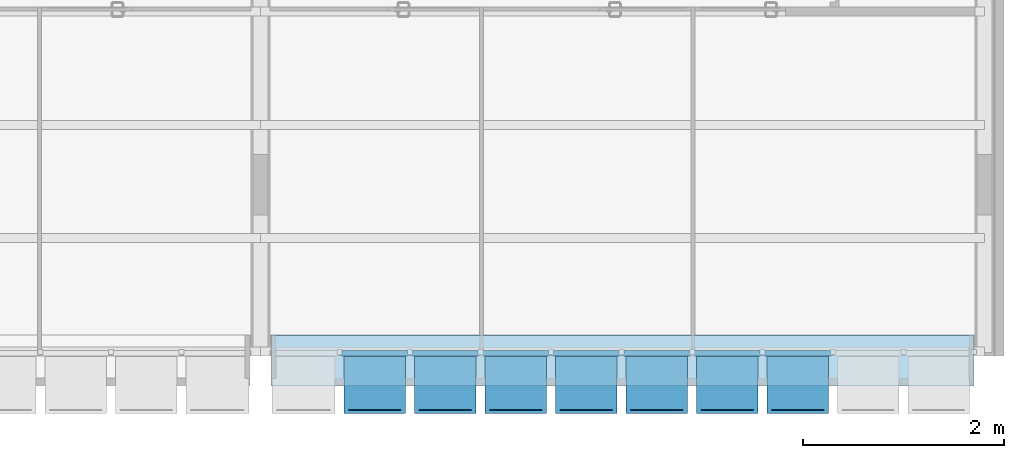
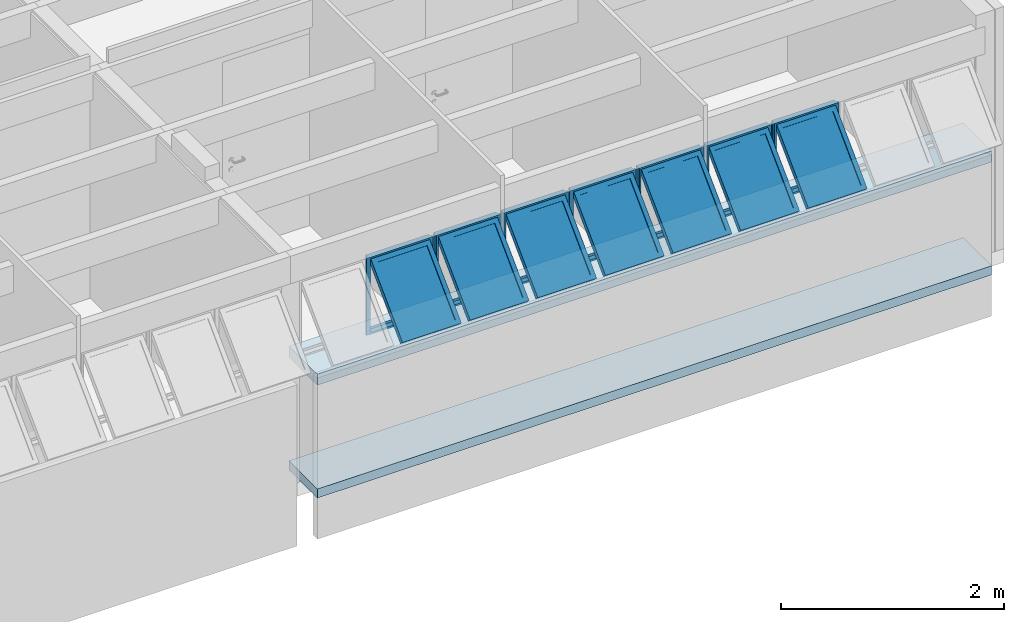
# One storey, part 6 of 41: 7 plates, 2 slabs, 1 element without a shape of its own.
"""IFC4 building model written with IfcOpenShell, lengths in millimetres."""

from ifc_helpers import new_model, entity, si_unit, converted_unit, derived_unit, direction, frame, origin_with_axes, place, context, subcontext, project, spatial, line, indexed_curve, outline, extrude, polygons, source, transform, mapped, material, layer, layer_set, layer_usage, constituent, constituent_set, type_object, element, aggregate, save


model = new_model("IFC4")

# Units and contexts
model_context = context("Model", 3, precision=0.01, world=origin_with_axes(), true_north=direction((0.0, 1.0)))
body_context = subcontext(model_context, "Body", "Model", "MODEL_VIEW")
ifc_project = project(units=[si_unit("LENGTHUNIT", "METRE", prefix="MILLI"), si_unit("AREAUNIT", "SQUARE_METRE"), si_unit("VOLUMEUNIT", "CUBIC_METRE"), converted_unit("PLANEANGLEUNIT", "DEGREE", entity("IfcPlaneAngleMeasure", 0.0174532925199), si_unit("PLANEANGLEUNIT", "RADIAN"), dimensions=[0, 0, 0, 0, 0, 0, 0]), converted_unit("TIMEUNIT", "Year", entity("IfcTimeMeasure", 31556926.0), si_unit("TIMEUNIT", "SECOND"), dimensions=[0, 0, 1, 0, 0, 0, 0]), si_unit("MASSUNIT", "GRAM", prefix="KILO"), si_unit("THERMODYNAMICTEMPERATUREUNIT", "DEGREE_CELSIUS"), si_unit("LUMINOUSINTENSITYUNIT", "LUMEN"), si_unit("ENERGYUNIT", "JOULE", prefix="MEGA"), derived_unit("THERMALCONDUCTANCEUNIT", [(si_unit("POWERUNIT", "WATT"), 1), (si_unit("LENGTHUNIT", "METRE"), -1), (si_unit("THERMODYNAMICTEMPERATUREUNIT", "KELVIN"), -1)]), derived_unit("SPECIFICHEATCAPACITYUNIT", [(si_unit("ENERGYUNIT", "JOULE"), 1), (si_unit("MASSUNIT", "GRAM", prefix="KILO"), -1), (si_unit("THERMODYNAMICTEMPERATUREUNIT", "KELVIN"), -1)]), derived_unit("MASSDENSITYUNIT", [(si_unit("MASSUNIT", "GRAM", prefix="KILO"), 1), (si_unit("VOLUMEUNIT", "CUBIC_METRE"), -1)])], contexts=[model_context])

# Site, building, storey
site_placement = place(None, origin_with_axes())
site = spatial("IfcSite", under=ifc_project, at=site_placement, Name="Local", CompositionType="ELEMENT")
building_placement = place(site_placement, origin_with_axes())
building = spatial("IfcBuilding", under=site, at=building_placement, Name="Construção", CompositionType="ELEMENT")
storey_placement = place(building_placement, frame((0.0, 0.0, 2650.0), z_axis=(0.0, 0.0, 1.0), x_axis=(1.0, 0.0, 0.0)))
storey = spatial("IfcBuildingStorey", under=building, at=storey_placement, Name="Segundo Pavimento", CompositionType="ELEMENT", Elevation=2650.0)

# Slabs
ifc_material_1 = material(Name="Concreto Armado Moldado in Loco - Estrutural")
ifc_layer_1 = layer(ifc_material_1, 120.0, ventilated="UNKNOWN", Name="Concreto Armado Moldado in Loco - Estrutural")
ifc_layer_set_1 = layer_set([ifc_layer_1], Name="Concreto Armado Moldado in Loco - Estrutural 120")
ifc_layer_usage_1 = layer_usage(ifc_layer_set_1, "AXIS3", "NEGATIVE", 120.0)
slab_type_1 = type_object("IfcSlabType", Name="Concreto Armado Moldado in Loco - Estrutural 120", PredefinedType="FLOOR")
slab_1_placement = place(storey_placement, frame((14470.0, 0.0, 1355.0), z_axis=(0.0, 0.0, 1.0), x_axis=(1.0, 0.0, 0.0)))
element("IfcSlab", 1, at=slab_1_placement, inside=storey, type_object=slab_type_1, material=ifc_layer_usage_1, Name="APTO6-LAJE-002", PredefinedType="FLOOR", context=body_context, shape_type="SweptSolid", body=[
    extrude(outline(indexed_curve([(0.0, 0.0), (0.0, 510.0), (-6980.0, 510.0), (-6980.0, 0.0)], segments=[line(1, 2, 3, 4, 1)])), frame((0.0, 0.0, -120.0), z_axis=(0.0, 0.0, 1.0), x_axis=(1.0, 0.0, 0.0)), (0.0, 0.0, 1.0), 120.0),
])
ifc_layer_2 = layer(ifc_material_1, 100.0, ventilated="UNKNOWN", Name="Concreto Armado Moldado in Loco - Estrutural")
ifc_layer_set_2 = layer_set([ifc_layer_2], Name="Concreto Armado Moldado in Loco - Estrutural 100")
ifc_layer_usage_2 = layer_usage(ifc_layer_set_2, "AXIS3", "NEGATIVE", 100.0)
slab_type_2 = type_object("IfcSlabType", Name="Concreto Armado Moldado in Loco - Estrutural 100", PredefinedType="FLOOR")
slab_2_placement = place(storey_placement, frame((14470.0, 0.0, 100.0), z_axis=(0.0, 0.0, 1.0), x_axis=(1.0, 0.0, 0.0)))
element("IfcSlab", 2, at=slab_2_placement, inside=storey, type_object=slab_type_2, material=ifc_layer_usage_2, Name="APTO6-LAJE-001", PredefinedType="FLOOR", context=body_context, shape_type="SweptSolid", body=[
    extrude(outline(indexed_curve([(0.0, 0.0), (0.0, 510.0), (-6980.0, 510.0), (-6980.0, 0.0)], segments=[line(1, 2, 3, 4, 1)])), frame((0.0, 0.0, -100.0), z_axis=(0.0, 0.0, 1.0), x_axis=(1.0, 0.0, 0.0)), (0.0, 0.0, 1.0), 100.0),
])

# Window, plates
window_type = type_object("IfcWindowType", Name="Tipo de Parede Cortina", PartitioningType="NOTDEFINED", PredefinedType="NOTDEFINED")
window_placement = place(storey_placement, frame((8520.0, 315.020977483, 1355.02054151), z_axis=(0.0, 0.0, 1.0), x_axis=(1.0, 0.0, 0.0)))
window = element("IfcWindow", 3, at=window_placement, inside=storey, type_object=window_type, Name="APTO6-JANELA-001", PredefinedType="NOTDEFINED")
ifc_material_2 = material(Name="Alumínio")
ifc_constituent_1 = constituent(ifc_material_2, Name="Alumínio")
ifc_material_3 = material(Name="Vidro")
ifc_constituent_2 = constituent(ifc_material_3, Name="Vidro")
ifc_constituent_set_1 = constituent_set(constituents=[ifc_constituent_1, ifc_constituent_2])
plate_type = type_object("IfcPlateType", Name="Painel Principal 690 x 845 x 20", PredefinedType="CURTAIN_PANEL")
shared_shape_1 = source(origin_with_axes(), body_context, "Body", "Tessellation", [
    polygons([(-25.0000036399, 0.0, -40.0), (-25.0000036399, 0.0, -35.0), (-674.999997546, 0.0, -35.0), (-674.999997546, 0.0, -40.0), (-70.0000036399, 45.0, -40.0), (-70.0000036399, 45.0, -35.0), (-629.999997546, 45.0, -35.0), (-629.999997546, 45.0, -40.0)], [[[1, 2, 3, 4]], [[5, 6, 2, 1]], [[2, 6, 7, 3]], [[4, 3, 7, 8]], [[1, 4, 8, 5]], [[8, 7, 6, 5]]], closed=True),
    polygons([(-674.999997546, 0.0, -40.0), (-674.999997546, 0.0, -35.0), (-674.999997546, 844.999891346, -35.0), (-674.999997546, 844.999891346, -40.0), (-629.999997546, 45.0, -40.0), (-629.999997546, 45.0, -35.0), (-629.999997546, 799.999891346, -35.0), (-629.999997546, 799.999891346, -40.0)], [[[1, 2, 3, 4]], [[5, 6, 2, 1]], [[2, 6, 7, 3]], [[4, 3, 7, 8]], [[1, 4, 8, 5]], [[8, 7, 6, 5]]], closed=True),
    polygons([(-25.0000036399, 844.999891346, -40.0), (-25.0000036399, 844.999891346, -35.0), (-70.0000036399, 799.999891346, -35.0), (-70.0000036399, 799.999891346, -40.0), (-674.999997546, 844.999891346, -40.0), (-674.999997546, 844.999891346, -35.0), (-629.999997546, 799.999891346, -35.0), (-629.999997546, 799.999891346, -40.0)], [[[1, 2, 3, 4]], [[5, 6, 2, 1]], [[2, 6, 7, 3]], [[4, 3, 7, 8]], [[1, 4, 8, 5]], [[8, 7, 6, 5]]], closed=True),
    polygons([(-25.0000036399, 0.0, -40.0), (-25.0000036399, 0.0, -35.0), (-70.0000036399, 45.0, -35.0), (-70.0000036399, 45.0, -40.0), (-25.0000036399, 844.999891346, -40.0), (-25.0000036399, 844.999891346, -35.0), (-70.0000036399, 799.999891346, -35.0), (-70.0000036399, 799.999891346, -40.0)], [[[1, 2, 3, 4]], [[5, 6, 2, 1]], [[2, 6, 7, 3]], [[4, 3, 7, 8]], [[1, 4, 8, 5]], [[8, 7, 6, 5]]], closed=True),
    polygons([(-25.0000036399, 0.0, -35.0), (-25.0000036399, 0.0, 15.0), (-674.999997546, 0.0, 15.0), (-674.999997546, 0.0, -35.0), (-45.0000036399, 20.0, -35.0), (-45.0000036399, 20.0, 15.0), (-654.999997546, 20.0, 15.0), (-654.999997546, 20.0, -35.0)], [[[1, 2, 3, 4]], [[5, 6, 2, 1]], [[2, 6, 7, 3]], [[4, 3, 7, 8]], [[1, 4, 8, 5]], [[8, 7, 6, 5]]], closed=True),
    polygons([(-674.999997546, 0.0, -35.0), (-674.999997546, 0.0, 15.0), (-674.999997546, 844.999891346, 15.0), (-674.999997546, 844.999891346, -35.0), (-654.999997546, 20.0, -35.0), (-654.999997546, 20.0, 15.0), (-654.999997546, 824.999891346, 15.0), (-654.999997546, 824.999891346, -35.0)], [[[1, 2, 3, 4]], [[5, 6, 2, 1]], [[2, 6, 7, 3]], [[4, 3, 7, 8]], [[1, 4, 8, 5]], [[8, 7, 6, 5]]], closed=True),
    polygons([(-25.0000036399, 844.999891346, -35.0), (-25.0000036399, 844.999891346, 15.0), (-45.0000036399, 824.999891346, 15.0), (-45.0000036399, 824.999891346, -35.0), (-674.999997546, 844.999891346, -35.0), (-674.999997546, 844.999891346, 15.0), (-654.999997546, 824.999891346, 15.0), (-654.999997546, 824.999891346, -35.0)], [[[1, 2, 3, 4]], [[5, 6, 2, 1]], [[2, 6, 7, 3]], [[4, 3, 7, 8]], [[1, 4, 8, 5]], [[8, 7, 6, 5]]], closed=True),
    polygons([(-25.0000036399, 0.0, -35.0), (-25.0000036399, 0.0, 15.0), (-45.0000036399, 20.0, 15.0), (-45.0000036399, 20.0, -35.0), (-25.0000036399, 844.999891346, -35.0), (-25.0000036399, 844.999891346, 15.0), (-45.0000036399, 824.999891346, 15.0), (-45.0000036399, 824.999891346, -35.0)], [[[1, 2, 3, 4]], [[5, 6, 2, 1]], [[2, 6, 7, 3]], [[4, 3, 7, 8]], [[1, 4, 8, 5]], [[8, 7, 6, 5]]], closed=True),
    polygons([(-694.999995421, 0.0, -10.0), (-694.999995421, 0.0, 10.0), (-694.999995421, 844.999891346, 10.0), (-694.999995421, 844.999891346, -10.0), (-674.999997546, 0.0, -10.0), (-674.999997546, 0.0, 10.0), (-674.999997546, 844.999891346, 10.0), (-674.999997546, 844.999891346, -10.0)], [[[1, 2, 3, 4]], [[5, 6, 2, 1]], [[2, 6, 7, 3]], [[4, 3, 7, 8]], [[1, 4, 8, 5]], [[8, 7, 6, 5]]], closed=True),
    polygons([(-5.00000576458, 844.999891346, -10.0), (-5.00000576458, 844.999891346, 10.0), (-5.00000576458, 0.0, 10.0), (-5.00000576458, 0.0, -10.0), (-25.0000036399, 844.999891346, -10.0), (-25.0000036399, 844.999891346, 10.0), (-25.0000036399, 0.0, 10.0), (-25.0000036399, 0.0, -10.0)], [[[1, 2, 3, 4]], [[5, 6, 2, 1]], [[2, 6, 7, 3]], [[4, 3, 7, 8]], [[1, 4, 8, 5]], [[8, 7, 6, 5]]], closed=True),
    polygons([(-90.0000036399, 252.243475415, 517.045737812), (-90.0000036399, 291.13434838, 555.936610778), (-90.0000036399, 796.715620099, 50.3553390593), (-90.0000036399, 757.824747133, 11.4644660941), (-45.0000036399, 220.423670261, 548.865542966), (-45.0000036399, 259.314543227, 587.756415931), (-45.0000036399, 828.535425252, 18.5355339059), (-45.0000036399, 789.644552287, -20.3553390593)], [[[1, 2, 3, 4]], [[5, 6, 2, 1]], [[2, 6, 7, 3]], [[4, 3, 7, 8]], [[1, 4, 8, 5]], [[8, 7, 6, 5]]], closed=True),
    polygons([(-654.999997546, 220.423670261, 548.865542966), (-654.999997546, 259.314543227, 587.756415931), (-654.999997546, 828.535425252, 18.5355339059), (-654.999997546, 789.644552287, -20.3553390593), (-609.999997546, 252.243475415, 517.045737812), (-609.999997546, 291.13434838, 555.936610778), (-609.999997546, 796.715620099, 50.3553390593), (-609.999997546, 757.824747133, 11.4644660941)], [[[1, 2, 3, 4]], [[5, 6, 2, 1]], [[2, 6, 7, 3]], [[4, 3, 7, 8]], [[1, 4, 8, 5]], [[8, 7, 6, 5]]], closed=True),
    polygons([(-654.999997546, 220.423670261, 548.865542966), (-654.999997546, 259.314543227, 587.756415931), (-609.999997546, 291.13434838, 555.936610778), (-609.999997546, 252.243475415, 517.045737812), (-45.0000036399, 220.423670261, 548.865542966), (-45.0000036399, 259.314543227, 587.756415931), (-90.0000036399, 291.13434838, 555.936610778), (-90.0000036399, 252.243475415, 517.045737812)], [[[1, 2, 3, 4]], [[5, 6, 2, 1]], [[2, 6, 7, 3]], [[4, 3, 7, 8]], [[1, 4, 8, 5]], [[8, 7, 6, 5]]], closed=True),
    polygons([(-45.0000036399, 789.644552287, -20.3553390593), (-45.0000036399, 828.535425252, 18.5355339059), (-90.0000036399, 796.715620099, 50.3553390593), (-90.0000036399, 757.824747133, 11.4644660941), (-654.999997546, 789.644552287, -20.3553390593), (-654.999997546, 828.535425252, 18.5355339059), (-609.999997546, 796.715620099, 50.3553390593), (-609.999997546, 757.824747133, 11.4644660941)], [[[1, 2, 3, 4]], [[5, 6, 2, 1]], [[2, 6, 7, 3]], [[4, 3, 7, 8]], [[1, 4, 8, 5]], [[8, 7, 6, 5]]], closed=True),
    polygons([(-90.0000036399, 272.749572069, 537.551834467), (-90.0000036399, 284.063280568, 548.865542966), (-609.999997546, 284.063280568, 548.865542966), (-609.999997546, 272.749572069, 537.551834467), (-90.0000036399, 778.330843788, 31.9705627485), (-90.0000036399, 789.644552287, 43.2842712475), (-609.999997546, 789.644552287, 43.2842712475), (-609.999997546, 778.330843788, 31.9705627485)], [[[1, 2, 3, 4]], [[5, 6, 2, 1]], [[2, 6, 7, 3]], [[4, 3, 7, 8]], [[1, 4, 8, 5]], [[8, 7, 6, 5]]], closed=True),
])
plate_1_placement = place(window_placement, frame((0.0, 0.0, 422.499945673), z_axis=(0.0, 0.0, 1.0), x_axis=(1.0, 0.0, 0.0)))
plate_1 = element("IfcPlate", 4, at=plate_1_placement, type_object=plate_type, material=ifc_constituent_set_1, Name="APTO6-Painel-Prin-030", PredefinedType="CURTAIN_PANEL", context=body_context, shape_type="MappedRepresentation", body=[
    mapped(shared_shape_1, transform((350.0, 0.0, -422.499945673), x_axis=(1.0, 0.0, 0.0), y_axis=(0.0, 0.0, 1.0), z_axis=(0.0, -1.0, 0.0))),
])
ifc_constituent_3 = constituent(ifc_material_2, Name="Alumínio")
ifc_constituent_4 = constituent(ifc_material_3, Name="Vidro")
ifc_constituent_set_2 = constituent_set(constituents=[ifc_constituent_3, ifc_constituent_4])
plate_2_placement = place(window_placement, frame((700.0, 0.0, 422.499945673), z_axis=(0.0, 0.0, 1.0), x_axis=(1.0, 0.0, 0.0)))
plate_2 = element("IfcPlate", 5, at=plate_2_placement, type_object=plate_type, material=ifc_constituent_set_2, Name="APTO6-Painel-Prin-020", PredefinedType="CURTAIN_PANEL", context=body_context, shape_type="MappedRepresentation", body=[
    mapped(shared_shape_1, transform((350.0, 0.0, -422.499945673), x_axis=(1.0, 0.0, 0.0), y_axis=(0.0, 0.0, 1.0), z_axis=(0.0, -1.0, 0.0))),
])
ifc_constituent_5 = constituent(ifc_material_2, Name="Alumínio")
ifc_constituent_6 = constituent(ifc_material_3, Name="Vidro")
ifc_constituent_set_3 = constituent_set(constituents=[ifc_constituent_5, ifc_constituent_6])
plate_3_placement = place(window_placement, frame((1400.0, 0.0, 422.499945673), z_axis=(0.0, 0.0, 1.0), x_axis=(1.0, 0.0, 0.0)))
plate_3 = element("IfcPlate", 6, at=plate_3_placement, type_object=plate_type, material=ifc_constituent_set_3, Name="APTO6-Painel-Prin-029", PredefinedType="CURTAIN_PANEL", context=body_context, shape_type="MappedRepresentation", body=[
    mapped(shared_shape_1, transform((350.0, 0.0, -422.499945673), x_axis=(1.0, 0.0, 0.0), y_axis=(0.0, 0.0, 1.0), z_axis=(0.0, -1.0, 0.0))),
])
ifc_constituent_7 = constituent(ifc_material_2, Name="Alumínio")
ifc_constituent_8 = constituent(ifc_material_3, Name="Vidro")
ifc_constituent_set_4 = constituent_set(constituents=[ifc_constituent_7, ifc_constituent_8])
plate_4_placement = place(window_placement, frame((3500.0, 0.0, 422.499945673), z_axis=(0.0, 0.0, 1.0), x_axis=(1.0, 0.0, 0.0)))
plate_4 = element("IfcPlate", 7, at=plate_4_placement, type_object=plate_type, material=ifc_constituent_set_4, Name="APTO6-Painel-Prin-013", PredefinedType="CURTAIN_PANEL", context=body_context, shape_type="MappedRepresentation", body=[
    mapped(shared_shape_1, transform((350.0, 0.0, -422.499945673), x_axis=(1.0, 0.0, 0.0), y_axis=(0.0, 0.0, 1.0), z_axis=(0.0, -1.0, 0.0))),
])
ifc_constituent_9 = constituent(ifc_material_2, Name="Alumínio")
ifc_constituent_10 = constituent(ifc_material_3, Name="Vidro")
ifc_constituent_set_5 = constituent_set(constituents=[ifc_constituent_9, ifc_constituent_10])
shared_shape_2 = source(origin_with_axes(), body_context, "Body", "Tessellation", [
    polygons([(-25.0000036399, 0.0, -40.0), (-25.0000036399, 0.0, -35.0), (-674.999997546, 0.0, -35.0), (-674.999997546, 0.0, -40.0), (-70.0000036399, 45.0, -40.0), (-70.0000036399, 45.0, -35.0), (-629.999997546, 45.0, -35.0), (-629.999997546, 45.0, -40.0)], [[[1, 2, 3, 4]], [[5, 6, 2, 1]], [[2, 6, 7, 3]], [[4, 3, 7, 8]], [[1, 4, 8, 5]], [[8, 7, 6, 5]]], closed=True),
    polygons([(-674.999997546, 0.0, -40.0), (-674.999997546, 0.0, -35.0), (-674.999997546, 844.999891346, -35.0), (-674.999997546, 844.999891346, -40.0), (-629.999997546, 45.0, -40.0), (-629.999997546, 45.0, -35.0), (-629.999997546, 799.999891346, -35.0), (-629.999997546, 799.999891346, -40.0)], [[[1, 2, 3, 4]], [[5, 6, 2, 1]], [[2, 6, 7, 3]], [[4, 3, 7, 8]], [[1, 4, 8, 5]], [[8, 7, 6, 5]]], closed=True),
    polygons([(-25.0000036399, 844.999891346, -40.0), (-25.0000036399, 844.999891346, -35.0), (-70.0000036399, 799.999891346, -35.0), (-70.0000036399, 799.999891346, -40.0), (-674.999997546, 844.999891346, -40.0), (-674.999997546, 844.999891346, -35.0), (-629.999997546, 799.999891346, -35.0), (-629.999997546, 799.999891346, -40.0)], [[[1, 2, 3, 4]], [[5, 6, 2, 1]], [[2, 6, 7, 3]], [[4, 3, 7, 8]], [[1, 4, 8, 5]], [[8, 7, 6, 5]]], closed=True),
    polygons([(-25.0000036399, 0.0, -40.0), (-25.0000036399, 0.0, -35.0), (-70.0000036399, 45.0, -35.0), (-70.0000036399, 45.0, -40.0), (-25.0000036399, 844.999891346, -40.0), (-25.0000036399, 844.999891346, -35.0), (-70.0000036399, 799.999891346, -35.0), (-70.0000036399, 799.999891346, -40.0)], [[[1, 2, 3, 4]], [[5, 6, 2, 1]], [[2, 6, 7, 3]], [[4, 3, 7, 8]], [[1, 4, 8, 5]], [[8, 7, 6, 5]]], closed=True),
    polygons([(-25.0000036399, 0.0, -35.0), (-25.0000036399, 0.0, 15.0), (-674.999997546, 0.0, 15.0), (-674.999997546, 0.0, -35.0), (-45.0000036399, 20.0, -35.0), (-45.0000036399, 20.0, 15.0), (-654.999997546, 20.0, 15.0), (-654.999997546, 20.0, -35.0)], [[[1, 2, 3, 4]], [[5, 6, 2, 1]], [[2, 6, 7, 3]], [[4, 3, 7, 8]], [[1, 4, 8, 5]], [[8, 7, 6, 5]]], closed=True),
    polygons([(-674.999997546, 0.0, -35.0), (-674.999997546, 0.0, 15.0), (-674.999997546, 844.999891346, 15.0), (-674.999997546, 844.999891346, -35.0), (-654.999997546, 20.0, -35.0), (-654.999997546, 20.0, 15.0), (-654.999997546, 824.999891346, 15.0), (-654.999997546, 824.999891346, -35.0)], [[[1, 2, 3, 4]], [[5, 6, 2, 1]], [[2, 6, 7, 3]], [[4, 3, 7, 8]], [[1, 4, 8, 5]], [[8, 7, 6, 5]]], closed=True),
    polygons([(-25.0000036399, 844.999891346, -35.0), (-25.0000036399, 844.999891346, 15.0), (-45.0000036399, 824.999891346, 15.0), (-45.0000036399, 824.999891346, -35.0), (-674.999997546, 844.999891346, -35.0), (-674.999997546, 844.999891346, 15.0), (-654.999997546, 824.999891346, 15.0), (-654.999997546, 824.999891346, -35.0)], [[[1, 2, 3, 4]], [[5, 6, 2, 1]], [[2, 6, 7, 3]], [[4, 3, 7, 8]], [[1, 4, 8, 5]], [[8, 7, 6, 5]]], closed=True),
    polygons([(-25.0000036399, 0.0, -35.0), (-25.0000036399, 0.0, 15.0), (-45.0000036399, 20.0, 15.0), (-45.0000036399, 20.0, -35.0), (-25.0000036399, 844.999891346, -35.0), (-25.0000036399, 844.999891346, 15.0), (-45.0000036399, 824.999891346, 15.0), (-45.0000036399, 824.999891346, -35.0)], [[[1, 2, 3, 4]], [[5, 6, 2, 1]], [[2, 6, 7, 3]], [[4, 3, 7, 8]], [[1, 4, 8, 5]], [[8, 7, 6, 5]]], closed=True),
    polygons([(-694.999995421, 0.0, -10.0), (-694.999995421, 0.0, 10.0), (-694.999995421, 844.999891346, 10.0), (-694.999995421, 844.999891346, -10.0), (-674.999997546, 0.0, -10.0), (-674.999997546, 0.0, 10.0), (-674.999997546, 844.999891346, 10.0), (-674.999997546, 844.999891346, -10.0)], [[[1, 2, 3, 4]], [[5, 6, 2, 1]], [[2, 6, 7, 3]], [[4, 3, 7, 8]], [[1, 4, 8, 5]], [[8, 7, 6, 5]]], closed=True),
    polygons([(-5.00000576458, 844.999891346, -10.0), (-5.00000576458, 844.999891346, 10.0), (-5.00000576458, 0.0, 10.0), (-5.00000576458, 0.0, -10.0), (-25.0000036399, 844.999891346, -10.0), (-25.0000036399, 844.999891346, 10.0), (-25.0000036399, 0.0, 10.0), (-25.0000036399, 0.0, -10.0)], [[[1, 2, 3, 4]], [[5, 6, 2, 1]], [[2, 6, 7, 3]], [[4, 3, 7, 8]], [[1, 4, 8, 5]], [[8, 7, 6, 5]]], closed=True),
    polygons([(-90.0000036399, 252.243475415, 517.045737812), (-90.0000036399, 291.13434838, 555.936610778), (-90.0000036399, 796.715620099, 50.3553390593), (-90.0000036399, 757.824747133, 11.4644660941), (-45.0000036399, 220.423670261, 548.865542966), (-45.0000036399, 259.314543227, 587.756415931), (-45.0000036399, 828.535425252, 18.5355339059), (-45.0000036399, 789.644552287, -20.3553390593)], [[[1, 2, 3, 4]], [[5, 6, 2, 1]], [[2, 6, 7, 3]], [[4, 3, 7, 8]], [[1, 4, 8, 5]], [[8, 7, 6, 5]]], closed=True),
    polygons([(-654.999997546, 220.423670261, 548.865542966), (-654.999997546, 259.314543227, 587.756415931), (-654.999997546, 828.535425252, 18.5355339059), (-654.999997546, 789.644552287, -20.3553390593), (-609.999997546, 252.243475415, 517.045737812), (-609.999997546, 291.13434838, 555.936610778), (-609.999997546, 796.715620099, 50.3553390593), (-609.999997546, 757.824747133, 11.4644660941)], [[[1, 2, 3, 4]], [[5, 6, 2, 1]], [[2, 6, 7, 3]], [[4, 3, 7, 8]], [[1, 4, 8, 5]], [[8, 7, 6, 5]]], closed=True),
    polygons([(-654.999997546, 220.423670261, 548.865542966), (-654.999997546, 259.314543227, 587.756415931), (-609.999997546, 291.13434838, 555.936610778), (-609.999997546, 252.243475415, 517.045737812), (-45.0000036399, 220.423670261, 548.865542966), (-45.0000036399, 259.314543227, 587.756415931), (-90.0000036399, 291.13434838, 555.936610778), (-90.0000036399, 252.243475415, 517.045737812)], [[[1, 2, 3, 4]], [[5, 6, 2, 1]], [[2, 6, 7, 3]], [[4, 3, 7, 8]], [[1, 4, 8, 5]], [[8, 7, 6, 5]]], closed=True),
    polygons([(-45.0000036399, 789.644552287, -20.3553390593), (-45.0000036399, 828.535425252, 18.5355339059), (-90.0000036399, 796.715620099, 50.3553390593), (-90.0000036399, 757.824747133, 11.4644660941), (-654.999997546, 789.644552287, -20.3553390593), (-654.999997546, 828.535425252, 18.5355339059), (-609.999997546, 796.715620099, 50.3553390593), (-609.999997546, 757.824747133, 11.4644660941)], [[[1, 2, 3, 4]], [[5, 6, 2, 1]], [[2, 6, 7, 3]], [[4, 3, 7, 8]], [[1, 4, 8, 5]], [[8, 7, 6, 5]]], closed=True),
    polygons([(-90.0000036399, 272.749572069, 537.551834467), (-90.0000036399, 284.063280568, 548.865542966), (-609.999997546, 284.063280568, 548.865542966), (-609.999997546, 272.749572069, 537.551834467), (-90.0000036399, 778.330843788, 31.9705627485), (-90.0000036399, 789.644552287, 43.2842712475), (-609.999997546, 789.644552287, 43.2842712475), (-609.999997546, 778.330843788, 31.9705627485)], [[[1, 2, 3, 4]], [[5, 6, 2, 1]], [[2, 6, 7, 3]], [[4, 3, 7, 8]], [[1, 4, 8, 5]], [[8, 7, 6, 5]]], closed=True),
])
plate_5_placement = place(window_placement, frame((2100.0, 0.0, 422.499945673), z_axis=(0.0, 0.0, 1.0), x_axis=(1.0, 0.0, 0.0)))
plate_5 = element("IfcPlate", 8, at=plate_5_placement, type_object=plate_type, material=ifc_constituent_set_5, Name="APTO6-Painel-Prin-025", PredefinedType="CURTAIN_PANEL", context=body_context, shape_type="MappedRepresentation", body=[
    mapped(shared_shape_2, transform((350.0, 0.0, -422.499945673), x_axis=(1.0, 0.0, 0.0), y_axis=(0.0, 0.0, 1.0), z_axis=(0.0, -1.0, 0.0))),
])
ifc_constituent_11 = constituent(ifc_material_2, Name="Alumínio")
ifc_constituent_12 = constituent(ifc_material_3, Name="Vidro")
ifc_constituent_set_6 = constituent_set(constituents=[ifc_constituent_11, ifc_constituent_12])
shared_shape_3 = source(origin_with_axes(), body_context, "Body", "Tessellation", [
    polygons([(-25.0000036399, 0.0, -40.0), (-25.0000036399, 0.0, -35.0), (-674.999997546, 0.0, -35.0), (-674.999997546, 0.0, -40.0), (-70.0000036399, 45.0, -40.0), (-70.0000036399, 45.0, -35.0), (-629.999997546, 45.0, -35.0), (-629.999997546, 45.0, -40.0)], [[[1, 2, 3, 4]], [[5, 6, 2, 1]], [[2, 6, 7, 3]], [[4, 3, 7, 8]], [[1, 4, 8, 5]], [[8, 7, 6, 5]]], closed=True),
    polygons([(-674.999997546, 0.0, -40.0), (-674.999997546, 0.0, -35.0), (-674.999997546, 844.999891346, -35.0), (-674.999997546, 844.999891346, -40.0), (-629.999997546, 45.0, -40.0), (-629.999997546, 45.0, -35.0), (-629.999997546, 799.999891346, -35.0), (-629.999997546, 799.999891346, -40.0)], [[[1, 2, 3, 4]], [[5, 6, 2, 1]], [[2, 6, 7, 3]], [[4, 3, 7, 8]], [[1, 4, 8, 5]], [[8, 7, 6, 5]]], closed=True),
    polygons([(-25.0000036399, 844.999891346, -40.0), (-25.0000036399, 844.999891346, -35.0), (-70.0000036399, 799.999891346, -35.0), (-70.0000036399, 799.999891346, -40.0), (-674.999997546, 844.999891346, -40.0), (-674.999997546, 844.999891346, -35.0), (-629.999997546, 799.999891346, -35.0), (-629.999997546, 799.999891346, -40.0)], [[[1, 2, 3, 4]], [[5, 6, 2, 1]], [[2, 6, 7, 3]], [[4, 3, 7, 8]], [[1, 4, 8, 5]], [[8, 7, 6, 5]]], closed=True),
    polygons([(-25.0000036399, 0.0, -40.0), (-25.0000036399, 0.0, -35.0), (-70.0000036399, 45.0, -35.0), (-70.0000036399, 45.0, -40.0), (-25.0000036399, 844.999891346, -40.0), (-25.0000036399, 844.999891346, -35.0), (-70.0000036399, 799.999891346, -35.0), (-70.0000036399, 799.999891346, -40.0)], [[[1, 2, 3, 4]], [[5, 6, 2, 1]], [[2, 6, 7, 3]], [[4, 3, 7, 8]], [[1, 4, 8, 5]], [[8, 7, 6, 5]]], closed=True),
    polygons([(-25.0000036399, 0.0, -35.0), (-25.0000036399, 0.0, 15.0), (-674.999997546, 0.0, 15.0), (-674.999997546, 0.0, -35.0), (-45.0000036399, 20.0, -35.0), (-45.0000036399, 20.0, 15.0), (-654.999997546, 20.0, 15.0), (-654.999997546, 20.0, -35.0)], [[[1, 2, 3, 4]], [[5, 6, 2, 1]], [[2, 6, 7, 3]], [[4, 3, 7, 8]], [[1, 4, 8, 5]], [[8, 7, 6, 5]]], closed=True),
    polygons([(-674.999997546, 0.0, -35.0), (-674.999997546, 0.0, 15.0), (-674.999997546, 844.999891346, 15.0), (-674.999997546, 844.999891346, -35.0), (-654.999997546, 20.0, -35.0), (-654.999997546, 20.0, 15.0), (-654.999997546, 824.999891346, 15.0), (-654.999997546, 824.999891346, -35.0)], [[[1, 2, 3, 4]], [[5, 6, 2, 1]], [[2, 6, 7, 3]], [[4, 3, 7, 8]], [[1, 4, 8, 5]], [[8, 7, 6, 5]]], closed=True),
    polygons([(-25.0000036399, 844.999891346, -35.0), (-25.0000036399, 844.999891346, 15.0), (-45.0000036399, 824.999891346, 15.0), (-45.0000036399, 824.999891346, -35.0), (-674.999997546, 844.999891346, -35.0), (-674.999997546, 844.999891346, 15.0), (-654.999997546, 824.999891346, 15.0), (-654.999997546, 824.999891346, -35.0)], [[[1, 2, 3, 4]], [[5, 6, 2, 1]], [[2, 6, 7, 3]], [[4, 3, 7, 8]], [[1, 4, 8, 5]], [[8, 7, 6, 5]]], closed=True),
    polygons([(-25.0000036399, 0.0, -35.0), (-25.0000036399, 0.0, 15.0), (-45.0000036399, 20.0, 15.0), (-45.0000036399, 20.0, -35.0), (-25.0000036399, 844.999891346, -35.0), (-25.0000036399, 844.999891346, 15.0), (-45.0000036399, 824.999891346, 15.0), (-45.0000036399, 824.999891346, -35.0)], [[[1, 2, 3, 4]], [[5, 6, 2, 1]], [[2, 6, 7, 3]], [[4, 3, 7, 8]], [[1, 4, 8, 5]], [[8, 7, 6, 5]]], closed=True),
    polygons([(-694.999995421, 0.0, -10.0), (-694.999995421, 0.0, 10.0), (-694.999995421, 844.999891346, 10.0), (-694.999995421, 844.999891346, -10.0), (-674.999997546, 0.0, -10.0), (-674.999997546, 0.0, 10.0), (-674.999997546, 844.999891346, 10.0), (-674.999997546, 844.999891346, -10.0)], [[[1, 2, 3, 4]], [[5, 6, 2, 1]], [[2, 6, 7, 3]], [[4, 3, 7, 8]], [[1, 4, 8, 5]], [[8, 7, 6, 5]]], closed=True),
    polygons([(-5.00000576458, 844.999891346, -10.0), (-5.00000576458, 844.999891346, 10.0), (-5.00000576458, 0.0, 10.0), (-5.00000576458, 0.0, -10.0), (-25.0000036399, 844.999891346, -10.0), (-25.0000036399, 844.999891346, 10.0), (-25.0000036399, 0.0, 10.0), (-25.0000036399, 0.0, -10.0)], [[[1, 2, 3, 4]], [[5, 6, 2, 1]], [[2, 6, 7, 3]], [[4, 3, 7, 8]], [[1, 4, 8, 5]], [[8, 7, 6, 5]]], closed=True),
    polygons([(-90.0000036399, 252.243475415, 517.045737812), (-90.0000036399, 291.13434838, 555.936610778), (-90.0000036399, 796.715620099, 50.3553390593), (-90.0000036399, 757.824747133, 11.4644660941), (-45.0000036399, 220.423670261, 548.865542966), (-45.0000036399, 259.314543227, 587.756415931), (-45.0000036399, 828.535425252, 18.5355339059), (-45.0000036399, 789.644552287, -20.3553390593)], [[[1, 2, 3, 4]], [[5, 6, 2, 1]], [[2, 6, 7, 3]], [[4, 3, 7, 8]], [[1, 4, 8, 5]], [[8, 7, 6, 5]]], closed=True),
    polygons([(-654.999997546, 220.423670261, 548.865542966), (-654.999997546, 259.314543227, 587.756415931), (-654.999997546, 828.535425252, 18.5355339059), (-654.999997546, 789.644552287, -20.3553390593), (-609.999997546, 252.243475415, 517.045737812), (-609.999997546, 291.13434838, 555.936610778), (-609.999997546, 796.715620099, 50.3553390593), (-609.999997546, 757.824747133, 11.4644660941)], [[[1, 2, 3, 4]], [[5, 6, 2, 1]], [[2, 6, 7, 3]], [[4, 3, 7, 8]], [[1, 4, 8, 5]], [[8, 7, 6, 5]]], closed=True),
    polygons([(-654.999997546, 220.423670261, 548.865542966), (-654.999997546, 259.314543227, 587.756415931), (-609.999997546, 291.13434838, 555.936610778), (-609.999997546, 252.243475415, 517.045737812), (-45.0000036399, 220.423670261, 548.865542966), (-45.0000036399, 259.314543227, 587.756415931), (-90.0000036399, 291.13434838, 555.936610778), (-90.0000036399, 252.243475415, 517.045737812)], [[[1, 2, 3, 4]], [[5, 6, 2, 1]], [[2, 6, 7, 3]], [[4, 3, 7, 8]], [[1, 4, 8, 5]], [[8, 7, 6, 5]]], closed=True),
    polygons([(-45.0000036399, 789.644552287, -20.3553390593), (-45.0000036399, 828.535425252, 18.5355339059), (-90.0000036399, 796.715620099, 50.3553390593), (-90.0000036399, 757.824747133, 11.4644660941), (-654.999997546, 789.644552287, -20.3553390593), (-654.999997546, 828.535425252, 18.5355339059), (-609.999997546, 796.715620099, 50.3553390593), (-609.999997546, 757.824747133, 11.4644660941)], [[[1, 2, 3, 4]], [[5, 6, 2, 1]], [[2, 6, 7, 3]], [[4, 3, 7, 8]], [[1, 4, 8, 5]], [[8, 7, 6, 5]]], closed=True),
    polygons([(-90.0000036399, 272.749572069, 537.551834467), (-90.0000036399, 284.063280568, 548.865542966), (-609.999997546, 284.063280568, 548.865542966), (-609.999997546, 272.749572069, 537.551834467), (-90.0000036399, 778.330843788, 31.9705627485), (-90.0000036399, 789.644552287, 43.2842712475), (-609.999997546, 789.644552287, 43.2842712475), (-609.999997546, 778.330843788, 31.9705627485)], [[[1, 2, 3, 4]], [[5, 6, 2, 1]], [[2, 6, 7, 3]], [[4, 3, 7, 8]], [[1, 4, 8, 5]], [[8, 7, 6, 5]]], closed=True),
])
plate_6_placement = place(window_placement, frame((2800.0, 0.0, 422.499945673), z_axis=(0.0, 0.0, 1.0), x_axis=(1.0, 0.0, 0.0)))
plate_6 = element("IfcPlate", 9, at=plate_6_placement, type_object=plate_type, material=ifc_constituent_set_6, Name="APTO6-Painel-Prin-013", PredefinedType="CURTAIN_PANEL", context=body_context, shape_type="MappedRepresentation", body=[
    mapped(shared_shape_3, transform((350.0, 0.0, -422.499945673), x_axis=(1.0, 0.0, 0.0), y_axis=(0.0, 0.0, 1.0), z_axis=(0.0, -1.0, 0.0))),
])
ifc_constituent_13 = constituent(ifc_material_2, Name="Alumínio")
ifc_constituent_14 = constituent(ifc_material_3, Name="Vidro")
ifc_constituent_set_7 = constituent_set(constituents=[ifc_constituent_13, ifc_constituent_14])
plate_7_placement = place(window_placement, frame((4200.0, 0.0, 422.499945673), z_axis=(0.0, 0.0, 1.0), x_axis=(1.0, 0.0, 0.0)))
plate_7 = element("IfcPlate", 10, at=plate_7_placement, type_object=plate_type, material=ifc_constituent_set_7, Name="APTO6-Painel-Prin-013", PredefinedType="CURTAIN_PANEL", context=body_context, shape_type="MappedRepresentation", body=[
    mapped(shared_shape_3, transform((350.0, 0.0, -422.499945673), x_axis=(1.0, 0.0, 0.0), y_axis=(0.0, 0.0, 1.0), z_axis=(0.0, -1.0, 0.0))),
])
aggregate(window, [plate_1, plate_6, plate_5, plate_2, plate_7, plate_3, plate_4])

save(model, "model.ifc")
